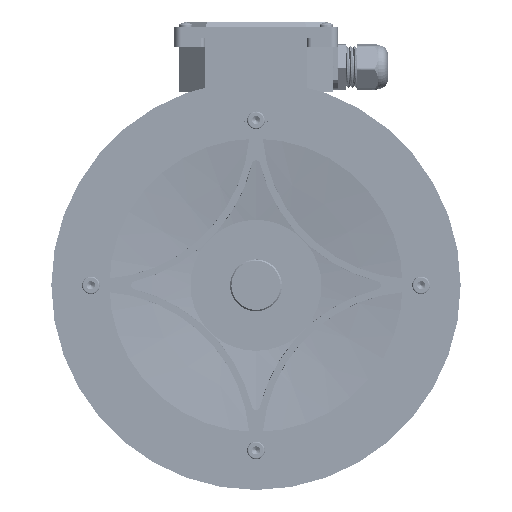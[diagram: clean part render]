
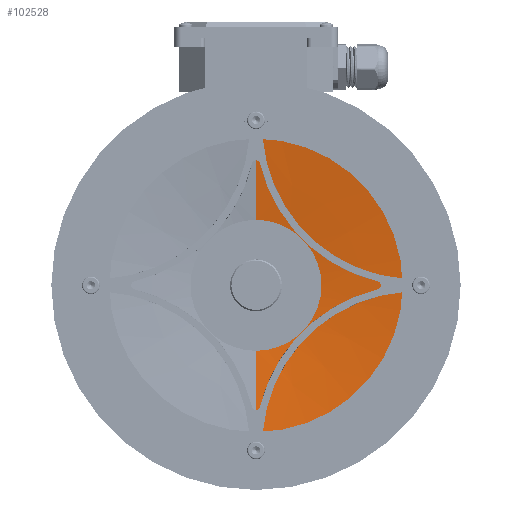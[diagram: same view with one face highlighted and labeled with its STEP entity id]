
A CAD part, front view. The second image highlights one B-rep face of the part: STEP entity #102528.
In plain terms, the highlighted conical face has half-angle 83.29 degrees and reference radius 48 mm.
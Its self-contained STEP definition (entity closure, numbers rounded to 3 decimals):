
#2133 = EDGE_CURVE ( 'NONE', #17231, #141499, #70128, .T. ) ;
#2165 = DIRECTION ( 'NONE',  ( 0., -0.117, 0.993 ) ) ;
#2521 = DIRECTION ( 'NONE',  ( 0., 0., -1. ) ) ;
#4750 = VERTEX_POINT ( 'NONE', #12517 ) ;
#9822 = DIRECTION ( 'NONE',  ( 0., -1., 0. ) ) ;
#12517 = CARTESIAN_POINT ( 'NONE',  ( 0., 8.363, 107.5 ) ) ;
#12786 = ORIENTED_EDGE ( 'NONE', *, *, #2133, .F. ) ;
#17231 = VERTEX_POINT ( 'NONE', #89439 ) ;
#17724 = ORIENTED_EDGE ( 'NONE', *, *, #108057, .F. ) ;
#19108 = DIRECTION ( 'NONE',  ( 0., 0., -1. ) ) ;
#27847 = DIRECTION ( 'NONE',  ( 0., -0.117, -0.993 ) ) ;
#32016 = FACE_OUTER_BOUND ( 'NONE', #52355, .T. ) ;
#52355 = EDGE_LOOP ( 'NONE', ( #17724, #12786, #115237, #92653 ) ) ;
#52759 = CIRCLE ( 'NONE', #69422, 107.5 ) ;
#54412 = VECTOR ( 'NONE', #2165, 1000. ) ;
#54862 = VECTOR ( 'NONE', #27847, 1000. ) ;
#56496 = CARTESIAN_POINT ( 'NONE',  ( 0., 15.363, 48. ) ) ;
#57533 = CONICAL_SURFACE ( 'NONE', #86736, 48., 1.454 ) ;
#67802 = DIRECTION ( 'NONE',  ( 0., -1., 0. ) ) ;
#69422 = AXIS2_PLACEMENT_3D ( 'NONE', #133150, #67802, #2521 ) ;
#70128 = CIRCLE ( 'NONE', #84216, 48. ) ;
#71169 = CARTESIAN_POINT ( 'NONE',  ( 0., 15.363, -48. ) ) ;
#71780 = EDGE_CURVE ( 'NONE', #17231, #84229, #83890, .T. ) ;
#75096 = CARTESIAN_POINT ( 'NONE',  ( 0., 15.363, 0. ) ) ;
#76399 = EDGE_CURVE ( 'NONE', #84229, #4750, #52759, .T. ) ;
#83430 = LINE ( 'NONE', #56496, #54412 ) ;
#83890 = LINE ( 'NONE', #71169, #54862 ) ;
#84216 = AXIS2_PLACEMENT_3D ( 'NONE', #75096, #9822, #86081 ) ;
#84229 = VERTEX_POINT ( 'NONE', #90419 ) ;
#84393 = DIRECTION ( 'NONE',  ( 0., -1., 0. ) ) ;
#86081 = DIRECTION ( 'NONE',  ( 0., 0., -1. ) ) ;
#86736 = AXIS2_PLACEMENT_3D ( 'NONE', #127792, #84393, #19108 ) ;
#89439 = CARTESIAN_POINT ( 'NONE',  ( 0., 15.363, -48. ) ) ;
#90419 = CARTESIAN_POINT ( 'NONE',  ( 0., 8.363, -107.5 ) ) ;
#92653 = ORIENTED_EDGE ( 'NONE', *, *, #76399, .T. ) ;
#99481 = CARTESIAN_POINT ( 'NONE',  ( 0., 15.363, 48. ) ) ;
#102528 = ADVANCED_FACE ( 'NONE', ( #32016 ), #57533, .F. ) ;
#108057 = EDGE_CURVE ( 'NONE', #141499, #4750, #83430, .T. ) ;
#115237 = ORIENTED_EDGE ( 'NONE', *, *, #71780, .T. ) ;
#127792 = CARTESIAN_POINT ( 'NONE',  ( 0., 15.363, 0. ) ) ;
#133150 = CARTESIAN_POINT ( 'NONE',  ( 0., 8.363, 0. ) ) ;
#141499 = VERTEX_POINT ( 'NONE', #99481 ) ;
